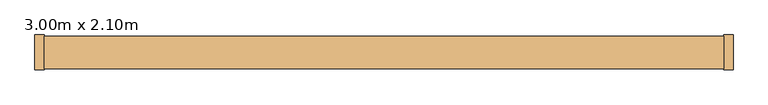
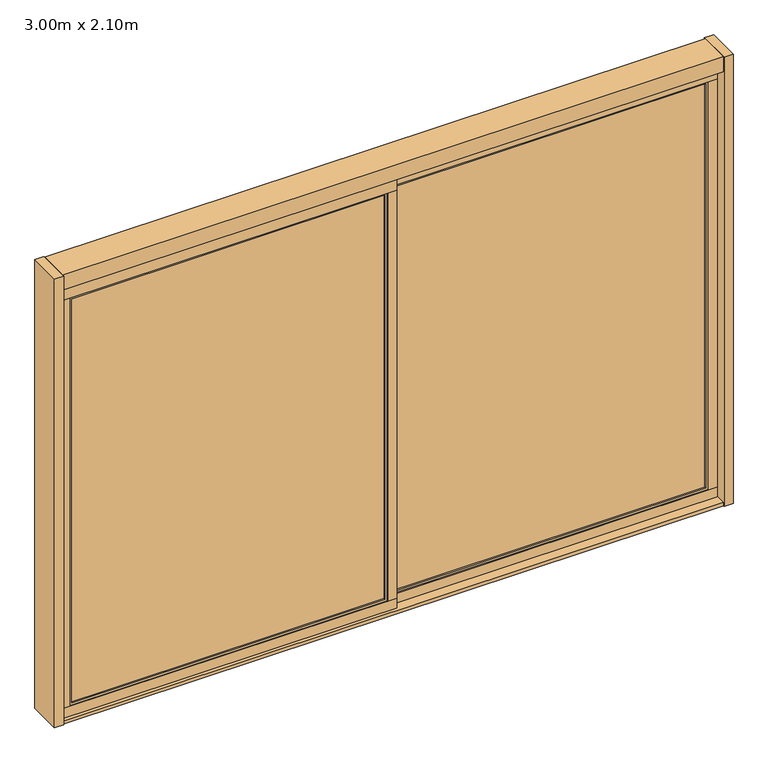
"""IFC4 building model written with IfcOpenShell, lengths in millimetres: door geometry, Porta de Correr - 2 Folhas - ComPainel 1 : 3.00m x 2.10m."""

from ifc_helpers import new_model, si_unit, frame, origin, origin_with_axes, place, context, project, spatial, polyline, outline, extrude, faceted_brep, source, transform, mapped, element, save


def door_3_00m_x_2_10m_5baaadc1(model_context):
    return source(origin(), model_context, "Body", "SolidModel", [
        extrude(outline(polyline([(1000.0, 1484.2060771), (1000.0, 1454.2060771), (800.0, 1454.2060771), (800.0, 1484.2060771), (1000.0, 1484.2060771)]), holes=[polyline([(924.4849874, 1461.0294364), (924.4849874, 1478.1448294), (820.0, 1478.1448294), (820.0, 1461.0294364), (924.4849874, 1461.0294364)])]), frame((0.0, 5.0, 0.0), z_axis=(0.0, 1.0, 0.0), x_axis=(0.0, 0.0, 1.0)), (0.0, 0.0, 1.0), 2.3991119),
        extrude(outline(polyline([(1439.2060771, -7.672758), (1439.2060771, -12.9358747), (54.2060771, -12.9358747), (54.2060771, -7.672758), (1439.2060771, -7.672758)])), frame((0.0, 0.0, 70.0), z_axis=(0.0, 0.0, 1.0), x_axis=(1.0, 0.0, 0.0)), (0.0, 0.0, 1.0), 1890.0),
        faceted_brep([(4.2060771, 5.0, 2030.0), (4.2060771, 5.0, 1970.0), (4.2060771, 4.375, 1970.0), (4.2060771, 4.375, 60.0), (4.2060771, 5.0, 60.0), (4.2060771, 5.0, 0.0), (4.2060771, -25.0, 0.0), (4.2060771, -25.0, 60.0), (4.2060771, -24.375, 60.0), (4.2060771, -24.375, 1970.0), (4.2060771, -25.0, 1970.0), (4.2060771, -25.0, 2030.0), (1489.2060771, 5.0, 2030.0), (1489.2060771, -25.0, 2030.0), (1489.2060771, -25.0, 1970.0), (1489.2060771, -23.75, 1970.0), (1489.2060771, -23.75, 60.0), (1489.2060771, -25.0, 60.0), (1489.2060771, -25.0, 0.0), (1489.2060771, 5.0, 0.0), (1489.2060771, 5.0, 60.0), (1489.2060771, 3.75, 60.0), (1489.2060771, 3.75, 1970.0), (1489.2060771, 5.0, 1970.0), (44.2060771, -24.375, 1970.0), (44.2060771, -20.0, 1970.0), (1449.2060771, -20.0, 1970.0), (1449.2060771, -23.75, 1970.0), (44.2060771, -20.0, 60.0), (1449.2060771, -20.0, 60.0), (1439.2060771, -20.0, 1960.0), (1439.2060771, -20.0, 70.0), (54.2060771, -20.0, 70.0), (54.2060771, -20.0, 1960.0), (54.2060771, 0.0, 1960.0), (1439.2060771, 0.0, 1960.0), (1449.2060771, 0.0, 1970.0), (1449.2060771, 0.0, 60.0), (44.2060771, 0.0, 60.0), (44.2060771, 0.0, 1970.0), (54.2060771, 0.0, 70.0), (1439.2060771, 0.0, 70.0), (1449.2060771, 3.75, 1970.0), (44.2060771, 4.375, 1970.0), (44.2060771, -24.375, 60.0), (44.2060771, 4.375, 60.0), (1449.2060771, -23.75, 60.0), (1449.2060771, 3.75, 60.0)], [[[0, 1, 2, 3, 4, 5, 6, 7, 8, 9, 10, 11]], [[12, 13, 14, 15, 16, 17, 18, 19, 20, 21, 22, 23]], [[11, 13, 12, 0]], [[10, 14, 13, 11]], [[10, 9, 24, 25, 26, 27, 15, 14]], [[25, 28, 29, 26], [30, 31, 32, 33]], [[34, 35, 30, 33]], [[36, 37, 38, 39], [34, 40, 41, 35]], [[23, 22, 42, 36, 39, 43, 2, 1]], [[0, 12, 23, 1]], [[8, 44, 24, 9]], [[44, 28, 25, 24]], [[33, 32, 40, 34]], [[43, 39, 38, 45]], [[2, 43, 45, 3]], [[15, 27, 46, 16]], [[27, 26, 29, 46]], [[35, 41, 31, 30]], [[47, 37, 36, 42]], [[21, 47, 42, 22]], [[18, 6, 5, 19]], [[17, 7, 6, 18]], [[17, 16, 46, 29, 28, 44, 8, 7]], [[40, 32, 31, 41]], [[4, 3, 45, 38, 37, 47, 21, 20]], [[19, 5, 4, 20]]]),
        extrude(outline(polyline([(4.2060771, -37.672758), (4.2060771, -42.9358747), (-1380.7939229, -42.9358747), (-1380.7939229, -37.672758), (4.2060771, -37.672758)])), frame((0.0, 0.0, 70.0), z_axis=(0.0, 0.0, 1.0), x_axis=(1.0, 0.0, 0.0)), (0.0, 0.0, 1.0), 1890.0),
        faceted_brep([(-1430.7939229, -25.0, 2030.0), (-1430.7939229, -25.0, 1970.0), (-1430.7939229, -25.625, 1970.0), (-1430.7939229, -25.625, 60.0), (-1430.7939229, -25.0, 60.0), (-1430.7939229, -25.0, 0.0), (-1430.7939229, -55.0, 0.0), (-1430.7939229, -55.0, 60.0), (-1430.7939229, -54.375, 60.0), (-1430.7939229, -54.375, 1970.0), (-1430.7939229, -55.0, 1970.0), (-1430.7939229, -55.0, 2030.0), (54.2060771, -25.0, 2030.0), (54.2060771, -55.0, 2030.0), (54.2060771, -55.0, 1970.0), (54.2060771, -53.75, 1970.0), (54.2060771, -53.75, 60.0), (54.2060771, -55.0, 60.0), (54.2060771, -55.0, 0.0), (54.2060771, -25.0, 0.0), (54.2060771, -25.0, 60.0), (54.2060771, -26.25, 60.0), (54.2060771, -26.25, 1970.0), (54.2060771, -25.0, 1970.0), (-1390.7939229, -54.375, 1970.0), (-1390.7939229, -50.0, 1970.0), (14.2060771, -50.0, 1970.0), (14.2060771, -53.75, 1970.0), (-1390.7939229, -50.0, 60.0), (14.2060771, -50.0, 60.0), (4.2060771, -50.0, 1960.0), (4.2060771, -50.0, 70.0), (-1380.7939229, -50.0, 70.0), (-1380.7939229, -50.0, 1960.0), (-1380.7939229, -30.0, 1960.0), (4.2060771, -30.0, 1960.0), (14.2060771, -30.0, 1970.0), (14.2060771, -30.0, 60.0), (-1390.7939229, -30.0, 60.0), (-1390.7939229, -30.0, 1970.0), (-1380.7939229, -30.0, 70.0), (4.2060771, -30.0, 70.0), (14.2060771, -26.25, 1970.0), (-1390.7939229, -25.625, 1970.0), (-1390.7939229, -54.375, 60.0), (-1390.7939229, -25.625, 60.0), (14.2060771, -53.75, 60.0), (14.2060771, -26.25, 60.0)], [[[0, 1, 2, 3, 4, 5, 6, 7, 8, 9, 10, 11]], [[12, 13, 14, 15, 16, 17, 18, 19, 20, 21, 22, 23]], [[11, 13, 12, 0]], [[10, 14, 13, 11]], [[10, 9, 24, 25, 26, 27, 15, 14]], [[25, 28, 29, 26], [30, 31, 32, 33]], [[34, 35, 30, 33]], [[36, 37, 38, 39], [34, 40, 41, 35]], [[23, 22, 42, 36, 39, 43, 2, 1]], [[0, 12, 23, 1]], [[8, 44, 24, 9]], [[44, 28, 25, 24]], [[33, 32, 40, 34]], [[43, 39, 38, 45]], [[2, 43, 45, 3]], [[15, 27, 46, 16]], [[27, 26, 29, 46]], [[35, 41, 31, 30]], [[47, 37, 36, 42]], [[21, 47, 42, 22]], [[18, 6, 5, 19]], [[17, 7, 6, 18]], [[17, 16, 46, 29, 28, 44, 8, 7]], [[40, 32, 31, 41]], [[4, 3, 45, 38, 37, 47, 21, 20]], [[19, 5, 4, 20]]]),
        extrude(outline(polyline([(1489.2060771, 70.0), (1489.2060771, -70.0), (-1430.7939229, -70.0), (-1430.7939229, 70.0), (1489.2060771, 70.0)])), frame((0.0, 0.0, 2030.0), z_axis=(0.0, 0.0, 1.0), x_axis=(1.0, 0.0, 0.0)), (0.0, 0.0, 1.0), 70.0),
        extrude(outline(polyline([(1489.2060771, 70.0), (1489.2060771, -70.0), (-1430.7939229, -70.0), (-1430.7939229, 70.0), (1489.2060771, 70.0)])), origin_with_axes(), (0.0, 0.0, 1.0), 15.0),
        extrude(outline(polyline([(-1430.7939229, 75.0), (-1430.7939229, -75.0), (-1470.7939229, -75.0), (-1470.7939229, 75.0), (-1430.7939229, 75.0)])), origin_with_axes(), (0.0, 0.0, 1.0), 2100.0),
        extrude(outline(polyline([(1529.2060771, 75.0), (1529.2060771, -75.0), (1489.2060771, -75.0), (1489.2060771, 75.0), (1529.2060771, 75.0)])), origin_with_axes(), (0.0, 0.0, 1.0), 2100.0),
    ])


if __name__ == "__main__":
    model = new_model("IFC4")
    model_context = context("Model", 3, world=origin())
    ifc_project = project(units=[si_unit("LENGTHUNIT", "METRE", prefix="MILLI")], contexts=[model_context])
    site = spatial("IfcSite", under=ifc_project)
    building = spatial("IfcBuilding", under=site)
    placement = place(None, origin())
    door_3_00m_x_2_10m_shape = door_3_00m_x_2_10m_5baaadc1(model_context)
    element("IfcDoor", 1, ObjectType="Porta de Correr - 2 Folhas - ComPainel 1 : 3.00m x 2.10m", at=placement, inside=building, context=model_context, shape_type="MappedRepresentation", body=[
        mapped(door_3_00m_x_2_10m_shape, transform((0.0, 0.0, 0.0), x_axis=(1.0, 0.0, 0.0), y_axis=(0.0, 1.0, 0.0), z_axis=(0.0, 0.0, 1.0))),
    ])
    save(model, "model.ifc")
